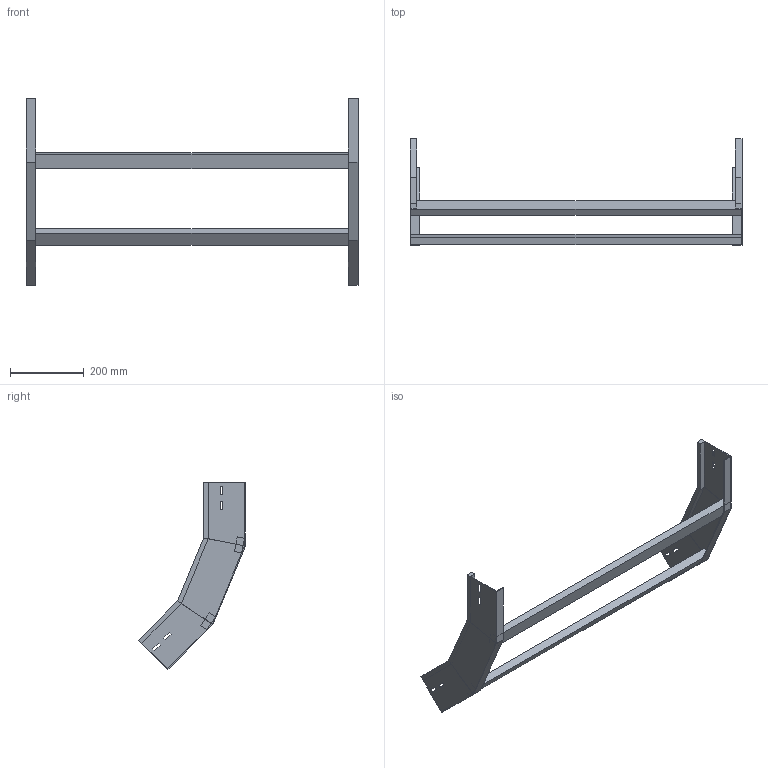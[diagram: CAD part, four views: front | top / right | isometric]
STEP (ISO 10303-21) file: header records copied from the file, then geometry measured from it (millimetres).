
FILE_DESCRIPTION (( 'STEP AP214' ), '1' );
FILE_NAME ('A2X31B3J900XX.step', '2025-03-20T10:06:46', ( '' ), ( '' ), 'SwSTEP 2.0', 'SolidWorks 2023', '' );
FILE_SCHEMA (( 'AUTOMOTIVE_DESIGN' ));
Length unit declared in the file: millimetre
Products named in the file (3): TRAVERSINO_900; A2X31B3J900XX; LONGH.SALITA_45°_H112.5_R300
Assembly tree (4 placements, depth 2):
  A2X31B3J900XX
    LONGH.SALITA_45°_H112.5_R300  x2
    TRAVERSINO_900  x2
Bounding box: 900 x 289.26 x 506.29 mm (x, y, z)
Volume: 1932600.5 mm3; surface area: 551555.8 mm2
Topology: 4 solids, 4 shells, 96 faces, 232 edges, 144 vertices
Faces by surface type: plane 96
Entity records: 1472 total; most frequent: CARTESIAN_POINT 243, ORIENTED_EDGE 232, DIRECTION 226, VECTOR 116, EDGE_CURVE 116, LINE 116, VERTEX_POINT 72, EDGE_LOOP 56
